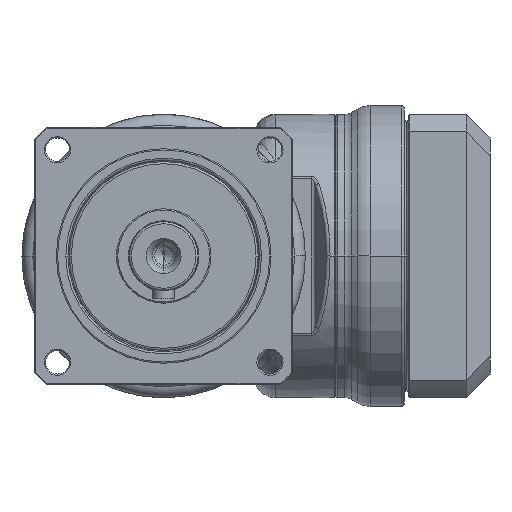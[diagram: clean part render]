
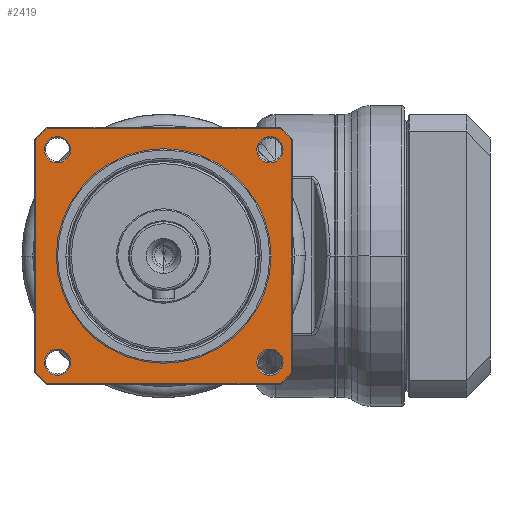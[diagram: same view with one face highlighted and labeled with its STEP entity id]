
A CAD part, left-side view. The second image highlights one B-rep face of the part: STEP entity #2419.
In plain terms, the highlighted planar face has unit normal (-1, 0, 0).
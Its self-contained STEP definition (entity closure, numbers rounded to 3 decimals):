
#638=CARTESIAN_POINT('',(5.5,24.749,-24.749));
#639=DIRECTION('',(1.,0.,0.));
#640=DIRECTION('',(0.,-1.,0.));
#641=AXIS2_PLACEMENT_3D('',#638,#639,#640);
#643=CARTESIAN_POINT('',(5.5,24.749,-24.749));
#644=DIRECTION('',(1.,0.,0.));
#645=DIRECTION('',(0.,1.,0.));
#646=AXIS2_PLACEMENT_3D('',#643,#644,#645);
#648=CARTESIAN_POINT('',(5.5,24.749,24.749));
#649=DIRECTION('',(1.,0.,0.));
#650=DIRECTION('',(0.,0.,-1.));
#651=AXIS2_PLACEMENT_3D('',#648,#649,#650);
#653=CARTESIAN_POINT('',(5.5,24.749,24.749));
#654=DIRECTION('',(1.,0.,0.));
#655=DIRECTION('',(0.,0.,1.));
#656=AXIS2_PLACEMENT_3D('',#653,#654,#655);
#658=CARTESIAN_POINT('',(5.5,-24.749,24.749));
#659=DIRECTION('',(1.,0.,0.));
#660=DIRECTION('',(0.,1.,0.));
#661=AXIS2_PLACEMENT_3D('',#658,#659,#660);
#663=CARTESIAN_POINT('',(5.5,-24.749,24.749));
#664=DIRECTION('',(1.,0.,0.));
#665=DIRECTION('',(0.,-1.,0.));
#666=AXIS2_PLACEMENT_3D('',#663,#664,#665);
#668=CARTESIAN_POINT('',(5.5,-24.749,-24.749));
#669=DIRECTION('',(1.,0.,0.));
#670=DIRECTION('',(0.,0.,1.));
#671=AXIS2_PLACEMENT_3D('',#668,#669,#670);
#673=CARTESIAN_POINT('',(5.5,-24.749,-24.749));
#674=DIRECTION('',(1.,0.,0.));
#675=DIRECTION('',(0.,0.,-1.));
#676=AXIS2_PLACEMENT_3D('',#673,#674,#675);
#678=CARTESIAN_POINT('',(5.5,0.,0.));
#679=DIRECTION('',(-1.,0.,0.));
#680=DIRECTION('',(0.,1.,0.));
#681=AXIS2_PLACEMENT_3D('',#678,#679,#680);
#683=CARTESIAN_POINT('',(5.5,0.,0.));
#684=DIRECTION('',(-1.,0.,0.));
#685=DIRECTION('',(0.,-1.,0.));
#686=AXIS2_PLACEMENT_3D('',#683,#684,#685);
#688=CARTESIAN_POINT('',(5.5,0.,0.));
#689=DIRECTION('',(-1.,0.,0.));
#690=DIRECTION('',(0.,0.739,-0.673));
#691=AXIS2_PLACEMENT_3D('',#688,#689,#690);
#693=DIRECTION('',(0.,0.,-1.));
#694=VECTOR('',#693,54.26);
#695=CARTESIAN_POINT('',(5.5,29.8,27.13));
#696=LINE('',#695,#694);
#697=CARTESIAN_POINT('',(5.5,0.,0.));
#698=DIRECTION('',(-1.,0.,0.));
#699=DIRECTION('',(0.,0.673,0.739));
#700=AXIS2_PLACEMENT_3D('',#697,#698,#699);
#702=DIRECTION('',(0.,1.,0.));
#703=VECTOR('',#702,54.26);
#704=CARTESIAN_POINT('',(5.5,-27.13,29.8));
#705=LINE('',#704,#703);
#706=CARTESIAN_POINT('',(5.5,0.,0.));
#707=DIRECTION('',(-1.,0.,0.));
#708=DIRECTION('',(0.,-0.739,0.673));
#709=AXIS2_PLACEMENT_3D('',#706,#707,#708);
#711=DIRECTION('',(0.,0.,1.));
#712=VECTOR('',#711,54.26);
#713=CARTESIAN_POINT('',(5.5,-29.8,-27.13));
#714=LINE('',#713,#712);
#715=CARTESIAN_POINT('',(5.5,0.,0.));
#716=DIRECTION('',(-1.,0.,0.));
#717=DIRECTION('',(0.,-0.673,-0.739));
#718=AXIS2_PLACEMENT_3D('',#715,#716,#717);
#720=DIRECTION('',(0.,-1.,0.));
#721=VECTOR('',#720,54.26);
#722=CARTESIAN_POINT('',(5.5,27.13,-29.8));
#723=LINE('',#722,#721);
#1258=CARTESIAN_POINT('',(5.5,21.699,-24.749));
#1259=CARTESIAN_POINT('',(5.5,27.799,-24.749));
#1260=VERTEX_POINT('',#1258);
#1261=VERTEX_POINT('',#1259);
#1274=CARTESIAN_POINT('',(5.5,24.749,21.699));
#1275=CARTESIAN_POINT('',(5.5,24.749,27.799));
#1276=VERTEX_POINT('',#1274);
#1277=VERTEX_POINT('',#1275);
#1290=CARTESIAN_POINT('',(5.5,-21.699,24.749));
#1291=CARTESIAN_POINT('',(5.5,-27.799,24.749));
#1292=VERTEX_POINT('',#1290);
#1293=VERTEX_POINT('',#1291);
#1306=CARTESIAN_POINT('',(5.5,-24.749,
-21.699));
#1307=CARTESIAN_POINT('',(5.5,-24.749,
-27.799));
#1308=VERTEX_POINT('',#1306);
#1309=VERTEX_POINT('',#1307);
#1402=CARTESIAN_POINT('',(5.5,29.8,-27.13));
#1403=CARTESIAN_POINT('',(5.5,27.13,-29.8));
#1404=VERTEX_POINT('',#1402);
#1405=VERTEX_POINT('',#1403);
#1406=CARTESIAN_POINT('',(5.5,-27.13,
-29.8));
#1407=VERTEX_POINT('',#1406);
#1412=CARTESIAN_POINT('',(5.5,-29.8,-27.13));
#1413=VERTEX_POINT('',#1412);
#1414=CARTESIAN_POINT('',(5.5,-29.8,27.13));
#1415=VERTEX_POINT('',#1414);
#1420=CARTESIAN_POINT('',(5.5,-27.13,29.8));
#1421=VERTEX_POINT('',#1420);
#1422=CARTESIAN_POINT('',(5.5,27.13,29.8));
#1423=VERTEX_POINT('',#1422);
#1428=CARTESIAN_POINT('',(5.5,29.8,27.13));
#1429=VERTEX_POINT('',#1428);
#1438=CARTESIAN_POINT('',(5.5,25.,0.));
#1439=CARTESIAN_POINT('',(5.5,-25.,0.));
#1440=VERTEX_POINT('',#1438);
#1441=VERTEX_POINT('',#1439);
#2367=CARTESIAN_POINT('',(5.5,0.,0.));
#2368=DIRECTION('',(1.,0.,0.));
#2369=DIRECTION('',(0.,-1.,0.));
#2370=AXIS2_PLACEMENT_3D('',#2367,#2368,#2369);
#2371=PLANE('',#2370);
#2373=ORIENTED_EDGE('',*,*,#2372,.F.);
#2375=ORIENTED_EDGE('',*,*,#2374,.F.);
#2377=ORIENTED_EDGE('',*,*,#2376,.F.);
#2379=ORIENTED_EDGE('',*,*,#2378,.F.);
#2381=ORIENTED_EDGE('',*,*,#2380,.F.);
#2383=ORIENTED_EDGE('',*,*,#2382,.F.);
#2385=ORIENTED_EDGE('',*,*,#2384,.F.);
#2387=ORIENTED_EDGE('',*,*,#2386,.F.);
#2388=EDGE_LOOP('',(#2373,#2375,#2377,#2379,#2381,#2383,#2385,#2387));
#2389=FACE_OUTER_BOUND('',#2388,.F.);
#2390=ORIENTED_EDGE('',*,*,#2357,.F.);
#2392=ORIENTED_EDGE('',*,*,#2391,.F.);
#2393=EDGE_LOOP('',(#2390,#2392));
#2394=FACE_BOUND('',#2393,.F.);
#2396=ORIENTED_EDGE('',*,*,#2395,.F.);
#2398=ORIENTED_EDGE('',*,*,#2397,.F.);
#2399=EDGE_LOOP('',(#2396,#2398));
#2400=FACE_BOUND('',#2399,.F.);
#2402=ORIENTED_EDGE('',*,*,#2401,.F.);
#2404=ORIENTED_EDGE('',*,*,#2403,.F.);
#2405=EDGE_LOOP('',(#2402,#2404));
#2406=FACE_BOUND('',#2405,.F.);
#2408=ORIENTED_EDGE('',*,*,#2407,.F.);
#2410=ORIENTED_EDGE('',*,*,#2409,.F.);
#2411=EDGE_LOOP('',(#2408,#2410));
#2412=FACE_BOUND('',#2411,.F.);
#2414=ORIENTED_EDGE('',*,*,#2413,.T.);
#2416=ORIENTED_EDGE('',*,*,#2415,.T.);
#2417=EDGE_LOOP('',(#2414,#2416));
#2418=FACE_BOUND('',#2417,.F.);
#2419=ADVANCED_FACE('',(#2389,#2394,#2400,#2406,#2412,#2418),#2371,.F.);
#642=CIRCLE('',#641,3.05);
#647=CIRCLE('',#646,3.05);
#652=CIRCLE('',#651,3.05);
#657=CIRCLE('',#656,3.05);
#662=CIRCLE('',#661,3.05);
#667=CIRCLE('',#666,3.05);
#672=CIRCLE('',#671,3.05);
#677=CIRCLE('',#676,3.05);
#682=CIRCLE('',#681,25.);
#687=CIRCLE('',#686,25.);
#692=CIRCLE('',#691,40.3);
#701=CIRCLE('',#700,40.3);
#710=CIRCLE('',#709,40.3);
#719=CIRCLE('',#718,40.3);
#2357=EDGE_CURVE('',#1260,#1261,#642,.T.);
#2372=EDGE_CURVE('',#1404,#1405,#692,.T.);
#2374=EDGE_CURVE('',#1429,#1404,#696,.T.);
#2376=EDGE_CURVE('',#1423,#1429,#701,.T.);
#2378=EDGE_CURVE('',#1421,#1423,#705,.T.);
#2380=EDGE_CURVE('',#1415,#1421,#710,.T.);
#2382=EDGE_CURVE('',#1413,#1415,#714,.T.);
#2384=EDGE_CURVE('',#1407,#1413,#719,.T.);
#2386=EDGE_CURVE('',#1405,#1407,#723,.T.);
#2391=EDGE_CURVE('',#1261,#1260,#647,.T.);
#2395=EDGE_CURVE('',#1276,#1277,#652,.T.);
#2397=EDGE_CURVE('',#1277,#1276,#657,.T.);
#2401=EDGE_CURVE('',#1292,#1293,#662,.T.);
#2403=EDGE_CURVE('',#1293,#1292,#667,.T.);
#2407=EDGE_CURVE('',#1308,#1309,#672,.T.);
#2409=EDGE_CURVE('',#1309,#1308,#677,.T.);
#2413=EDGE_CURVE('',#1440,#1441,#682,.T.);
#2415=EDGE_CURVE('',#1441,#1440,#687,.T.);
